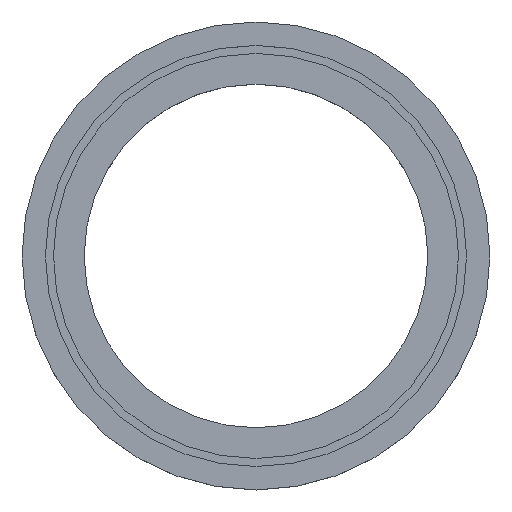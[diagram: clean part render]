
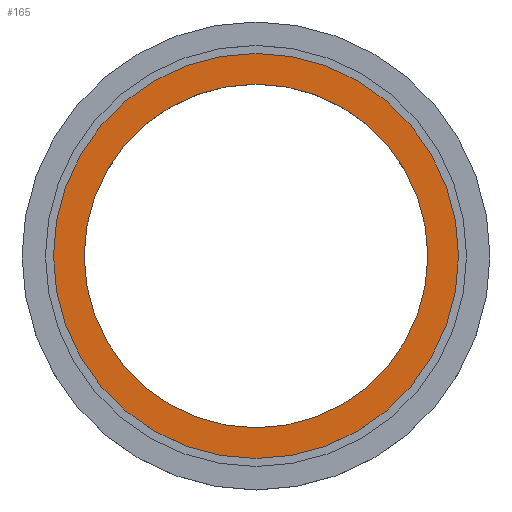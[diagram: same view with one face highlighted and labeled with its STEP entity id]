
A CAD part, top view. The second image highlights one B-rep face of the part: STEP entity #165.
In plain terms, the highlighted planar face has unit normal (0, 0, 1) as drawn and (0, 0, -1) by its records, which use the part's own axes.
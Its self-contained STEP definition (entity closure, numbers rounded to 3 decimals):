
#165 = ADVANCED_FACE( '', ( #245, #246 ), #247, .T. );
#245 = FACE_OUTER_BOUND( '', #340, .T. );
#246 = FACE_BOUND( '', #341, .T. );
#247 = PLANE( '', #342 );
#340 = EDGE_LOOP( '', ( #465 ) );
#341 = EDGE_LOOP( '', ( #466 ) );
#342 = AXIS2_PLACEMENT_3D( '', #467, #468, #469 );
#465 = ORIENTED_EDGE( '', *, *, #571, .T. );
#466 = ORIENTED_EDGE( '', *, *, #570, .F. );
#467 = CARTESIAN_POINT( '', ( -106.5, 0., 0. ) );
#468 = DIRECTION( '', ( 0., 0., -1. ) );
#469 = DIRECTION( '', ( -1., 0., 0. ) );
#570 = EDGE_CURVE( '', #624, #624, #625, .T. );
#571 = EDGE_CURVE( '', #626, #626, #627, .T. );
#624 = VERTEX_POINT( '', #682 );
#625 = CIRCLE( '', #683, 106.5 );
#626 = VERTEX_POINT( '', #684 );
#627 = CIRCLE( '', #685, 125.5 );
#682 = CARTESIAN_POINT( '', ( -106.5, 0., 0. ) );
#683 = AXIS2_PLACEMENT_3D( '', #753, #754, #755 );
#684 = CARTESIAN_POINT( '', ( -125.5, 0., 0. ) );
#685 = AXIS2_PLACEMENT_3D( '', #756, #757, #758 );
#753 = CARTESIAN_POINT( '', ( 0., 0., 0. ) );
#754 = DIRECTION( '', ( 0., 0., -1. ) );
#755 = DIRECTION( '', ( -1., 0., 0. ) );
#756 = CARTESIAN_POINT( '', ( 0., 0., 0. ) );
#757 = DIRECTION( '', ( 0., 0., -1. ) );
#758 = DIRECTION( '', ( -1., 0., 0. ) );
